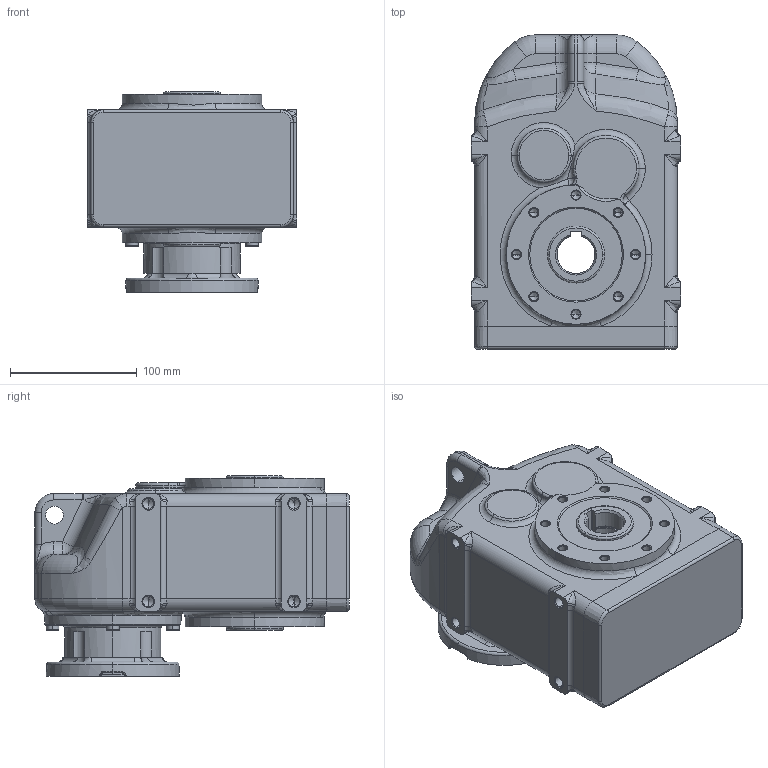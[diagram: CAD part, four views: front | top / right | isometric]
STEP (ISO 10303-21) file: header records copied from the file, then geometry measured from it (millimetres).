
FILE_DESCRIPTION (( 'STEP AP214' ), '1' );
FILE_NAME ('tnc13-f85-ap71.STEP', '2009-09-25T08:11:03', ( '' ), ( '' ), 'SwSTEP 2.0', 'SolidWorks 2003240', '' );
FILE_SCHEMA (( 'AUTOMOTIVE_DESIGN' ));
Products named in the file (4): tnc13-f85-ap71; pøíruba d55 MRT60a_pøíruba 70-85-105; Skøíò TNC1_Skøíò TNC13 AP71-F85; D6912_Šroub DIN 6912 - M6x20
Assembly tree (8 placements, depth 2):
  tnc13-f85-ap71
    D6912_Šroub DIN 6912 - M6x20  x6
    pøíruba d55 MRT60a_pøíruba 70-85-105
    Skøíò TNC1_Skøíò TNC13 AP71-F85
Bounding box: 165 x 248 x 158 mm (x, y, z)
Volume: 3709040.7 mm3; surface area: 215396.8 mm2
Topology: 8 solids, 8 shells, 951 faces, 2210 edges, 1241 vertices
Faces by surface type: cylinder 285, cone 258, plane 198, torus 113, bspline 92, sphere 5
Entity records: 89432 total; most frequent: CARTESIAN_POINT 70993, DIRECTION 3865, ORIENTED_EDGE 3592, EDGE_CURVE 1796, AXIS2_PLACEMENT_3D 1619, VERTEX_POINT 1086, CIRCLE 934, EDGE_LOOP 842
